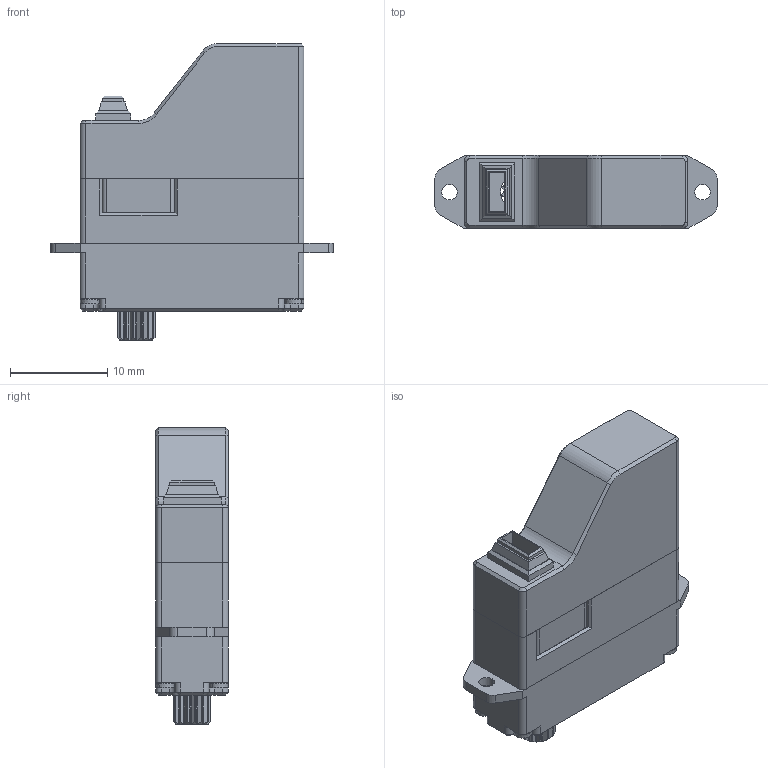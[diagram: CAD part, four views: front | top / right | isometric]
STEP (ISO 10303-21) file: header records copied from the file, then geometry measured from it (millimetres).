
FILE_DESCRIPTION (( 'STEP AP214' ), '1' );
FILE_NAME ('HV75_DM_20240812.STEP', '2024-08-12T09:56:54', ( '' ), ( '' ), 'SwSTEP 2.0', 'SolidWorks 2016', '' );
FILE_SCHEMA (( 'AUTOMOTIVE_DESIGN' ));
Length unit declared in the file: millimetre
Products named in the file (1): HV75_DM_20240812
Bounding box: 29 x 7.5 x 30.5 mm (x, y, z)
Surface area: 2245.8 mm2 (no closed solid volume)
Topology: 0 solids, 11 shells, 340 faces, 996 edges, 670 vertices
Faces by surface type: plane 186, cylinder 92, cone 46, bspline 16
Entity records: 15192 total; most frequent: CARTESIAN_POINT 2412, DIRECTION 1911, ORIENTED_EDGE 1776, EDGE_CURVE 996, VERTEX_POINT 670, AXIS2_PLACEMENT_3D 645, VECTOR 621, LINE 621
